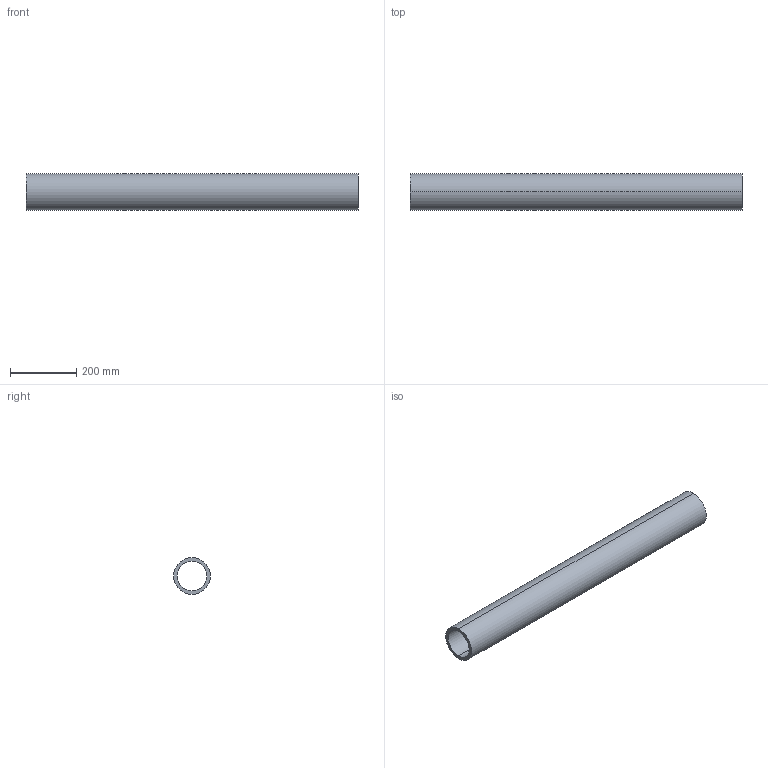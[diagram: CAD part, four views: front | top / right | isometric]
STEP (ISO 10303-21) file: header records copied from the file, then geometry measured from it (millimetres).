
FILE_DESCRIPTION (( 'STEP AP203' ), '1' );
FILE_NAME ('KP_110E6.step', '2011-08-08T11:49:51', ( '' ), ( '' ), 'SwSTEP 2.0', 'SolidWorks 2011', '' );
FILE_SCHEMA (( 'CONFIG_CONTROL_DESIGN' ));
Length unit declared in the file: millimetre
Products named in the file (1): KP_110E6
Bounding box: 1000 x 110.4 x 110.4 mm (x, y, z)
Volume: 3316420.3 mm3; surface area: 633851.8 mm2
Topology: 1 solids, 1 shells, 6 faces, 12 edges, 8 vertices
Faces by surface type: cylinder 4, plane 2
Entity records: 245 total; most frequent: DIRECTION 34, CARTESIAN_POINT 27, ORIENTED_EDGE 24, AXIS2_PLACEMENT_3D 15, EDGE_CURVE 12, VERTEX_POINT 8, EDGE_LOOP 8, CIRCLE 8
